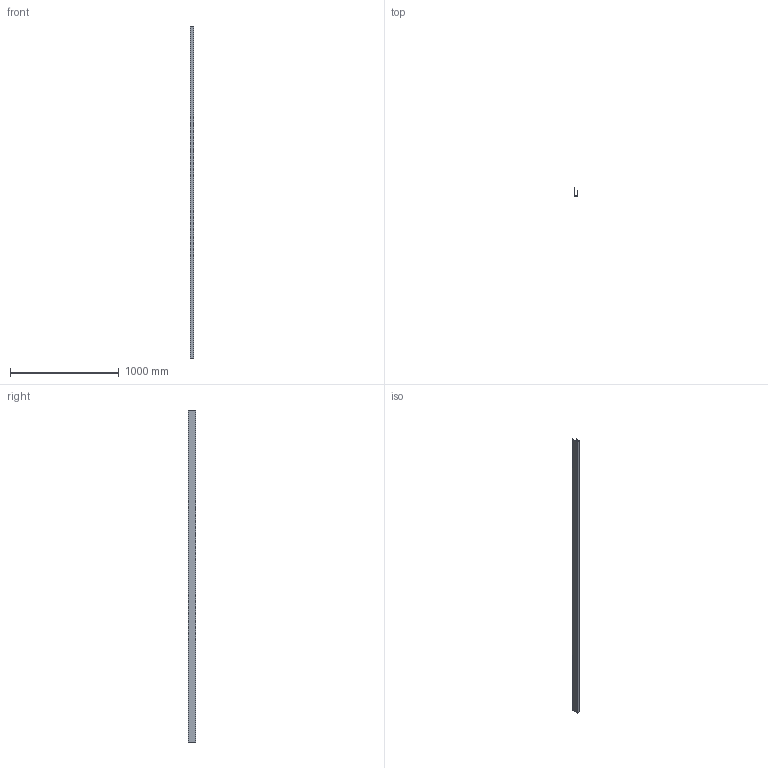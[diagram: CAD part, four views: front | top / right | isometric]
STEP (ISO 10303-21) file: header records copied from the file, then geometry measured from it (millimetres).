
FILE_DESCRIPTION (( 'STEP AP203' ), '1' );
FILE_NAME ('M01P.STEP', '2020-11-12T21:45:26', ( '' ), ( '' ), 'SwSTEP 2.0', 'SolidWorks 2018', '' );
FILE_SCHEMA (( 'CONFIG_CONTROL_DESIGN' ));
Length unit declared in the file: inch
Products named in the file (2): M01P
Bounding box: 30.04 x 71.44 x 3048 mm (x, y, z)
Volume: 244053.9 mm3; surface area: 964099.2 mm2
Topology: 1 solids, 1 shells, 18 faces, 48 edges, 32 vertices
Faces by surface type: plane 12, cylinder 6
Entity records: 721 total; most frequent: CARTESIAN_POINT 100, DIRECTION 100, ORIENTED_EDGE 96, EDGE_CURVE 48, LINE 36, VECTOR 36, AXIS2_PLACEMENT_3D 32, VERTEX_POINT 32
